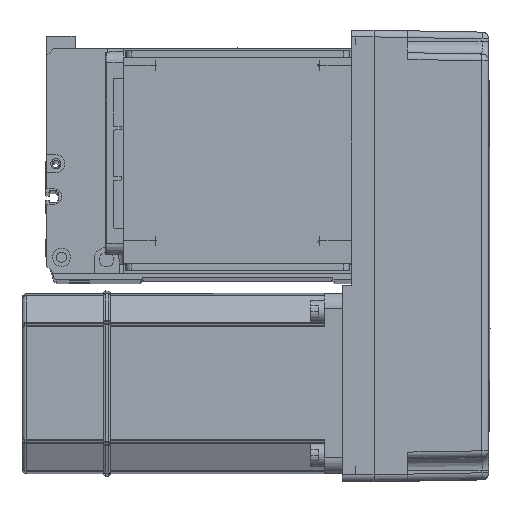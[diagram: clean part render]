
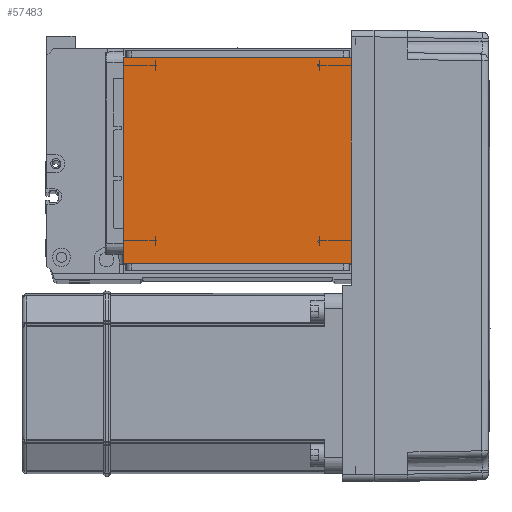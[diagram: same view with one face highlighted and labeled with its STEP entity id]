
A CAD part, top view. The second image highlights one B-rep face of the part: STEP entity #57483.
In plain terms, the highlighted planar face has unit normal (0, 0, 1).
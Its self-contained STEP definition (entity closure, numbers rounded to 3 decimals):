
#1197 = EDGE_CURVE ( 'NONE', #44343, #43471, #27301, .T. ) ;
#2822 = DIRECTION ( 'NONE',  ( 0., 0., 1. ) ) ;
#4118 = VERTEX_POINT ( 'NONE', #43099 ) ;
#4441 = EDGE_LOOP ( 'NONE', ( #25291, #56880, #25113, #57175 ) ) ;
#4460 = VERTEX_POINT ( 'NONE', #46142 ) ;
#7769 = DIRECTION ( 'NONE',  ( 1., 0., 0. ) ) ;
#11536 = LINE ( 'NONE', #25266, #23515 ) ;
#13572 = DIRECTION ( 'NONE',  ( 0., -1., 0. ) ) ;
#15489 = LINE ( 'NONE', #44642, #49722 ) ;
#16293 = FACE_OUTER_BOUND ( 'NONE', #4441, .T. ) ;
#19958 = DIRECTION ( 'NONE',  ( 1., 0., 0. ) ) ;
#23515 = VECTOR ( 'NONE', #7769, 1000. ) ;
#25113 = ORIENTED_EDGE ( 'NONE', *, *, #42422, .F. ) ;
#25266 = CARTESIAN_POINT ( 'NONE',  ( -70.004, 111.5, 115. ) ) ;
#25291 = ORIENTED_EDGE ( 'NONE', *, *, #29294, .F. ) ;
#27301 = LINE ( 'NONE', #31800, #52387 ) ;
#27984 = LINE ( 'NONE', #36017, #30778 ) ;
#29294 = EDGE_CURVE ( 'NONE', #4118, #43471, #11536, .T. ) ;
#29695 = CARTESIAN_POINT ( 'NONE',  ( 0., 0., 115. ) ) ;
#30778 = VECTOR ( 'NONE', #40474, 1000. ) ;
#31800 = CARTESIAN_POINT ( 'NONE',  ( 50.5, 122., 115. ) ) ;
#32264 = CARTESIAN_POINT ( 'NONE',  ( 50.5, 20., 115. ) ) ;
#36017 = CARTESIAN_POINT ( 'NONE',  ( -70.004, 20., 115. ) ) ;
#38634 = AXIS2_PLACEMENT_3D ( 'NONE', #29695, #2822, #19958 ) ;
#40377 = DIRECTION ( 'NONE',  ( 0., 1., 0. ) ) ;
#40474 = DIRECTION ( 'NONE',  ( -1., 0., 0. ) ) ;
#41237 = CARTESIAN_POINT ( 'NONE',  ( 50.5, 111.5, 115. ) ) ;
#42182 = PLANE ( 'NONE',  #38634 ) ;
#42422 = EDGE_CURVE ( 'NONE', #44343, #4460, #27984, .T. ) ;
#43099 = CARTESIAN_POINT ( 'NONE',  ( -50.5, 111.5, 115. ) ) ;
#43471 = VERTEX_POINT ( 'NONE', #41237 ) ;
#44343 = VERTEX_POINT ( 'NONE', #32264 ) ;
#44642 = CARTESIAN_POINT ( 'NONE',  ( -50.5, 122., 115. ) ) ;
#46142 = CARTESIAN_POINT ( 'NONE',  ( -50.5, 20., 115. ) ) ;
#49722 = VECTOR ( 'NONE', #13572, 1000. ) ;
#51934 = EDGE_CURVE ( 'NONE', #4118, #4460, #15489, .T. ) ;
#52387 = VECTOR ( 'NONE', #40377, 1000. ) ;
#56880 = ORIENTED_EDGE ( 'NONE', *, *, #51934, .T. ) ;
#57175 = ORIENTED_EDGE ( 'NONE', *, *, #1197, .T. ) ;
#57483 = ADVANCED_FACE ( 'NONE', ( #16293 ), #42182, .T. ) ;
